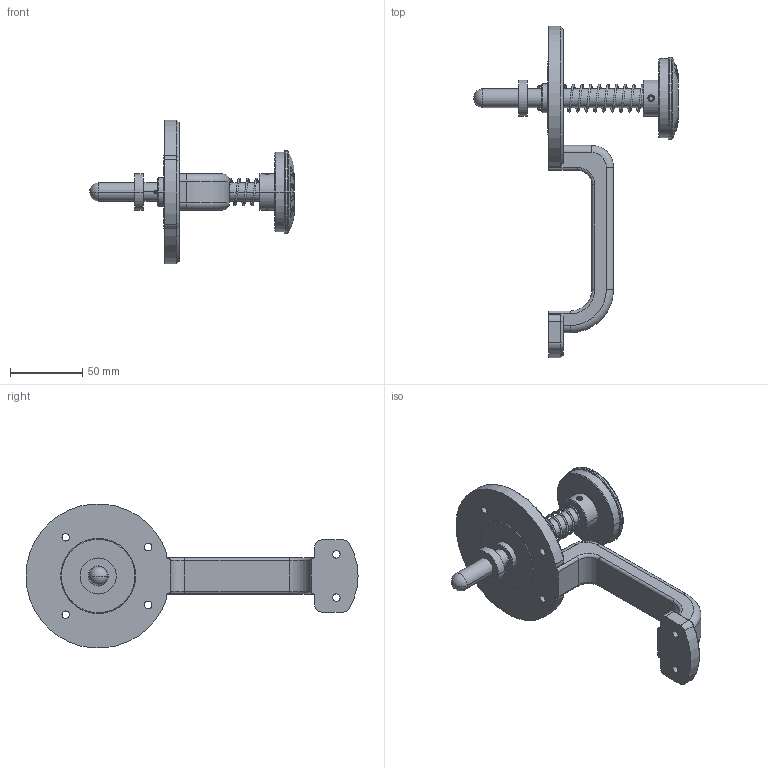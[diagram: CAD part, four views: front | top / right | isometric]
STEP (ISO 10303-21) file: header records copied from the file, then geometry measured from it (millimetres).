
FILE_DESCRIPTION (( 'STEP AP214' ), '1' );
FILE_NAME ('EB-30P-50.STEP', '2020-03-13T08:23:16', ( '' ), ( '' ), 'SwSTEP 2.0', 'SolidWorks 2019', '' );
FILE_SCHEMA (( 'AUTOMOTIVE_DESIGN' ));
Length unit declared in the file: millimetre
Products named in the file (1): EB-30P-50
Bounding box: 142 x 230 x 99.71 mm (x, y, z)
Volume: 202230.9 mm3; surface area: 48923.6 mm2
Topology: 1 solids, 1 shells, 333 faces, 857 edges, 551 vertices
Faces by surface type: plane 110, bspline 80, cylinder 77, cone 32, torus 32, sphere 2
Entity records: 17832 total; most frequent: CARTESIAN_POINT 10347, ORIENTED_EDGE 1706, DIRECTION 1285, EDGE_CURVE 853, VERTEX_POINT 549, AXIS2_PLACEMENT_3D 488, EDGE_LOOP 372, ADVANCED_FACE 333
